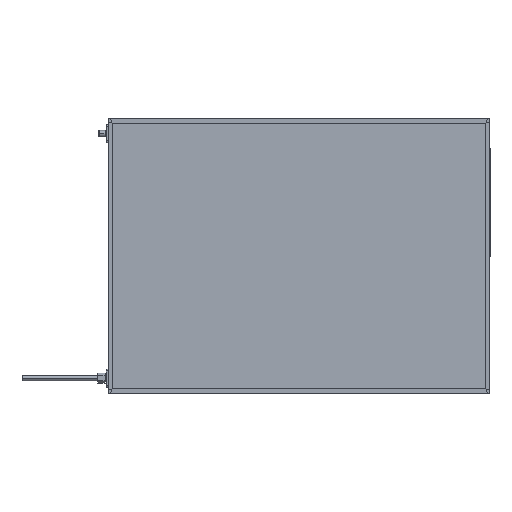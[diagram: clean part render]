
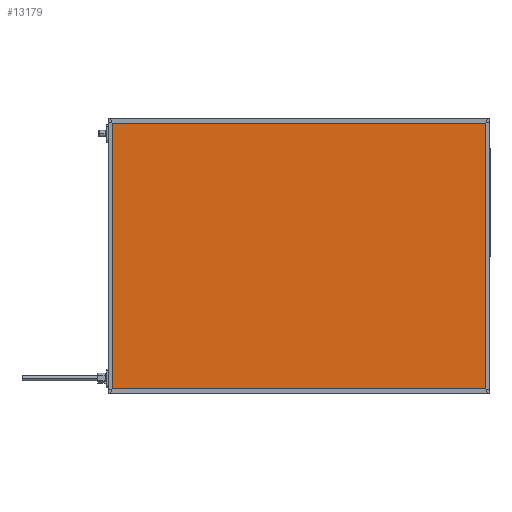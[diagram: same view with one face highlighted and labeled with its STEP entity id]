
A CAD part, top view. The second image highlights one B-rep face of the part: STEP entity #13179.
In plain terms, the highlighted planar face has unit normal (0, 0, 1).
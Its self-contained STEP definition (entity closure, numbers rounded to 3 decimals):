
#270 = AXIS2_PLACEMENT_3D ( 'NONE', #9332, #10623, #16166 ) ;
#913 = VERTEX_POINT ( 'NONE', #10383 ) ;
#1228 = VECTOR ( 'NONE', #5174, 1000. ) ;
#1418 = EDGE_CURVE ( 'NONE', #10183, #16021, #10898, .T. ) ;
#1516 = ORIENTED_EDGE ( 'NONE', *, *, #1418, .T. ) ;
#2426 = CARTESIAN_POINT ( 'NONE',  ( 696., 0., 41.85 ) ) ;
#2861 = CARTESIAN_POINT ( 'NONE',  ( 0., 4., 41.85 ) ) ;
#3474 = CARTESIAN_POINT ( 'NONE',  ( 0., 496., 41.85 ) ) ;
#3656 = DIRECTION ( 'NONE',  ( -1., 0., 0. ) ) ;
#4125 = ORIENTED_EDGE ( 'NONE', *, *, #5449, .T. ) ;
#4683 = VECTOR ( 'NONE', #8435, 1000. ) ;
#4924 = CARTESIAN_POINT ( 'NONE',  ( 696., 496., 41.85 ) ) ;
#4998 = LINE ( 'NONE', #2426, #1228 ) ;
#5057 = PLANE ( 'NONE',  #270 ) ;
#5174 = DIRECTION ( 'NONE',  ( 0., 1., 0. ) ) ;
#5449 = EDGE_CURVE ( 'NONE', #16021, #913, #7073, .T. ) ;
#7061 = EDGE_CURVE ( 'NONE', #12337, #10183, #14863, .T. ) ;
#7073 = LINE ( 'NONE', #2861, #4683 ) ;
#7237 = ORIENTED_EDGE ( 'NONE', *, *, #7061, .T. ) ;
#8244 = CARTESIAN_POINT ( 'NONE',  ( 4., 0., 41.85 ) ) ;
#8435 = DIRECTION ( 'NONE',  ( 1., 0., 0. ) ) ;
#9332 = CARTESIAN_POINT ( 'NONE',  ( 0., 0., 41.85 ) ) ;
#10183 = VERTEX_POINT ( 'NONE', #15111 ) ;
#10383 = CARTESIAN_POINT ( 'NONE',  ( 696., 4., 41.85 ) ) ;
#10623 = DIRECTION ( 'NONE',  ( 0., 0., -1. ) ) ;
#10898 = LINE ( 'NONE', #8244, #13671 ) ;
#12337 = VERTEX_POINT ( 'NONE', #4924 ) ;
#12524 = DIRECTION ( 'NONE',  ( 0., -1., 0. ) ) ;
#12712 = EDGE_LOOP ( 'NONE', ( #12919, #7237, #1516, #4125 ) ) ;
#12919 = ORIENTED_EDGE ( 'NONE', *, *, #17516, .T. ) ;
#13179 = ADVANCED_FACE ( 'NONE', ( #17542 ), #5057, .F. ) ;
#13671 = VECTOR ( 'NONE', #12524, 1000. ) ;
#13750 = VECTOR ( 'NONE', #3656, 1000. ) ;
#14863 = LINE ( 'NONE', #3474, #13750 ) ;
#15111 = CARTESIAN_POINT ( 'NONE',  ( 4., 496., 41.85 ) ) ;
#16021 = VERTEX_POINT ( 'NONE', #16380 ) ;
#16166 = DIRECTION ( 'NONE',  ( -1., 0., 0. ) ) ;
#16380 = CARTESIAN_POINT ( 'NONE',  ( 4., 4., 41.85 ) ) ;
#17516 = EDGE_CURVE ( 'NONE', #913, #12337, #4998, .T. ) ;
#17542 = FACE_OUTER_BOUND ( 'NONE', #12712, .T. ) ;
